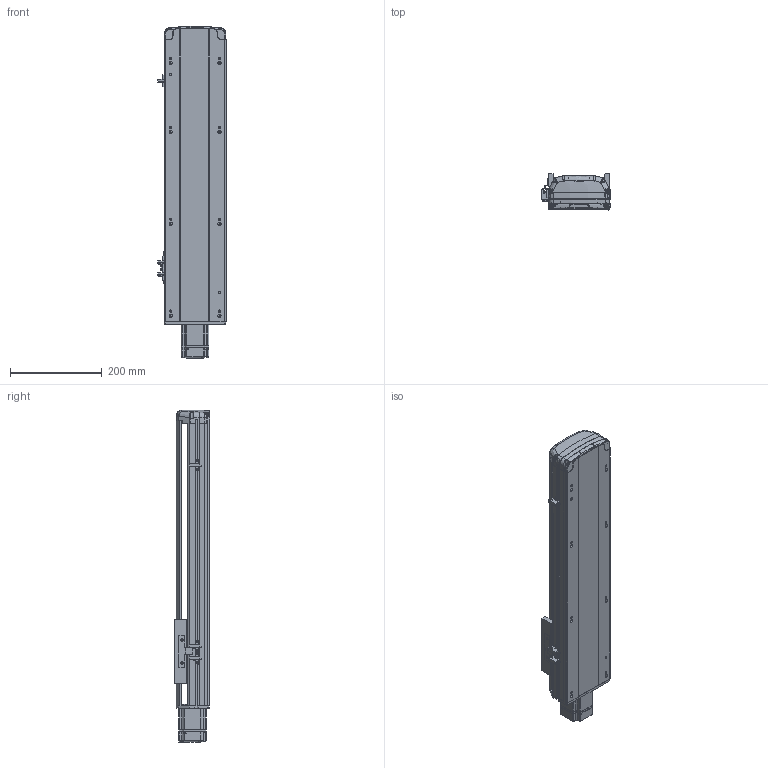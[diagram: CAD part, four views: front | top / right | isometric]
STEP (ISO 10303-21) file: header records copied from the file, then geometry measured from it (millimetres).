
FILE_DESCRIPTION (( 'STEP AP214' ), '1' );
FILE_NAME ('RTH14-XX-400-E-M20-C4.STEP', '2025-10-24T09:07:11', ( 'Microsoft' ), ( 'Microsoft' ), 'SwSTEP 2.0', 'SolidWorks 2018', '' );
FILE_SCHEMA (( 'AUTOMOTIVE_DESIGN' ));
Length unit declared in the file: millimetre
Products named in the file (9): N_RTH14-E-007P奻裔^RTH14-XX-XX-E-M20-C4; N_RTH13-E-008萇儂耜猾裔^RTH14-XX-XX-E-M20-C4; N_OMRON EE-SX672 传感器^RTH14-XX-XX-E-M20-C4; N_RTH14-R-004-SFSR16賑釱^RTH14-XX-XX-E-M20-C4; N_RTH14-E-011P菁釱^RTH14-XX-XX-E-M20-C4; RTH14-XX-400-E-M20-C4; N_RTH13-L-012感应片（外置）^RTH14-XX-XX-E-M20-C4; N_RTH14-GY-001P^RTH14-XX-XX-E-M20-C4; N_MSMD022P1AA_200W^RTH14-XX-XX-E-M20-C4
Assembly tree (10 placements, depth 2):
  RTH14-XX-400-E-M20-C4
    N_RTH14-E-011P菁釱^RTH14-XX-XX-E-M20-C4
    N_RTH14-E-007P奻裔^RTH14-XX-XX-E-M20-C4
    N_MSMD022P1AA_200W^RTH14-XX-XX-E-M20-C4
    N_RTH13-L-012感应片（外置）^RTH14-XX-XX-E-M20-C4
    N_OMRON EE-SX672 传感器^RTH14-XX-XX-E-M20-C4  x3
    N_RTH13-E-008萇儂耜猾裔^RTH14-XX-XX-E-M20-C4
    N_RTH14-R-004-SFSR16賑釱^RTH14-XX-XX-E-M20-C4
    N_RTH14-GY-001P^RTH14-XX-XX-E-M20-C4
Bounding box: 148.5 x 78.03 x 722.37 mm (x, y, z)
Volume: 3110482 mm3; surface area: 682911.4 mm2
Topology: 10 solids, 10 shells, 1853 faces, 5212 edges, 3424 vertices
Faces by surface type: plane 975, cylinder 488, bspline 341, cone 45, torus 4
Entity records: 56642 total; most frequent: CARTESIAN_POINT 22718, ORIENTED_EDGE 7492, DIRECTION 6017, EDGE_CURVE 3746, VERTEX_POINT 2460, VECTOR 2153, LINE 2153, AXIS2_PLACEMENT_3D 1932
